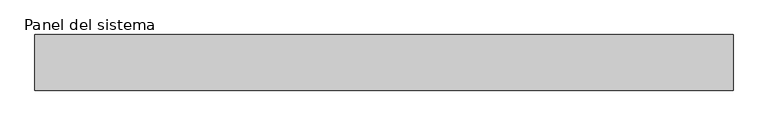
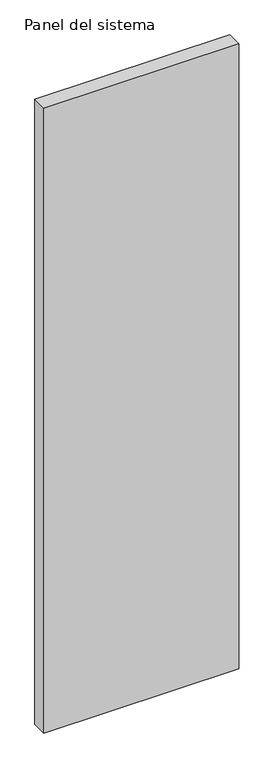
"""IFC4 building model written with IfcOpenShell, lengths in millimetres: plate geometry, Panel del sistema : HIANSA PANEL - PANELES DE CUBIERTA CON TAPAJUNTA - CUB 3GR - Esp. 80mm."""

from ifc_helpers import new_model, si_unit, origin, origin_with_axes, place, context, project, spatial, polyline, outline, extrude, source, transform, mapped, element, save


def panel_del_sistema_ddd7c84d(model_context):
    return source(origin(), model_context, "Body", "SweptSolid", [
        extrude(outline(polyline([(500.0000002, 0.0), (-500.0000002, 0.0), (-500.0000002, 80.0), (500.0000002, 80.0), (500.0000002, 0.0)])), origin_with_axes(), (0.0, 0.0, 1.0), 3390.8509027),
    ])


if __name__ == "__main__":
    model = new_model("IFC4")
    model_context = context("Model", 3, world=origin())
    ifc_project = project(units=[si_unit("LENGTHUNIT", "METRE", prefix="MILLI")], contexts=[model_context])
    site = spatial("IfcSite", under=ifc_project)
    building = spatial("IfcBuilding", under=site)
    placement = place(None, origin())
    panel_del_sistema_shape = panel_del_sistema_ddd7c84d(model_context)
    element("IfcPlate", 1, ObjectType="Panel del sistema : HIANSA PANEL - PANELES DE CUBIERTA CON TAPAJUNTA - CUB 3GR - Esp. 80mm", at=placement, inside=building, context=model_context, shape_type="MappedRepresentation", body=[
        mapped(panel_del_sistema_shape, transform((0.0, 0.0, 0.0), x_axis=(1.0, 0.0, 0.0), y_axis=(0.0, 1.0, 0.0), z_axis=(0.0, 0.0, 1.0))),
    ])
    save(model, "model.ifc")
